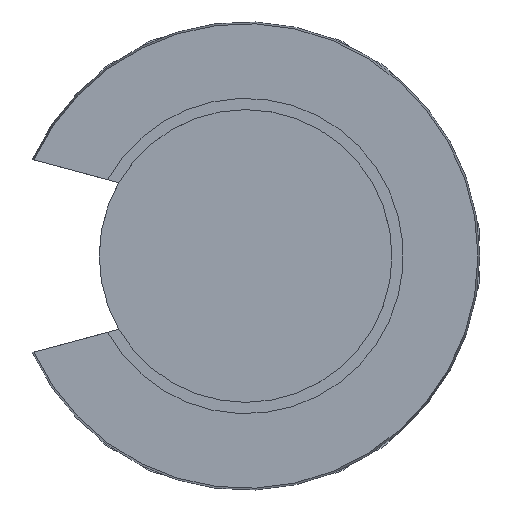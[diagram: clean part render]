
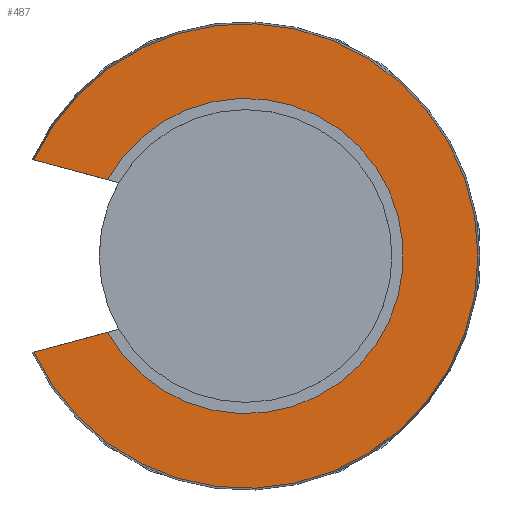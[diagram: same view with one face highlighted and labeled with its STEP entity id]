
A CAD part, front view. The second image highlights one B-rep face of the part: STEP entity #487.
In plain terms, the highlighted planar face has unit normal (0, -1, 0).
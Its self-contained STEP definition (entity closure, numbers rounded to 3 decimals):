
#202=CARTESIAN_POINT('',(-22.946,-33.34,-10.417));
#203=VERTEX_POINT('',#202);
#217=CARTESIAN_POINT('',(-14.963,-33.34,-8.277));
#218=VERTEX_POINT('',#217);
#219=CARTESIAN_POINT('',(-14.963,-33.34,-8.277));
#220=DIRECTION('',(-0.966,0.0,-0.259));
#221=VECTOR('',#220,8.265);
#222=LINE('',#219,#221);
#223=EDGE_CURVE('',#218,#203,#222,.T.);
#249=CARTESIAN_POINT('',(-14.963,-33.34,8.277));
#250=VERTEX_POINT('',#249);
#257=CARTESIAN_POINT('',(-22.946,-33.34,10.417));
#258=VERTEX_POINT('',#257);
#259=CARTESIAN_POINT('',(-22.946,-33.34,10.417));
#260=DIRECTION('',(0.966,0.0,-0.259));
#261=VECTOR('',#260,8.265);
#262=LINE('',#259,#261);
#263=EDGE_CURVE('',#258,#250,#262,.T.);
#452=CARTESIAN_POINT('',(0.0,-33.34,0.0));
#453=DIRECTION('',(0.0,1.0,0.0));
#454=DIRECTION('',(-1.0,0.0,0.0));
#455=AXIS2_PLACEMENT_3D('',#452,#453,#454);
#456=CIRCLE('',#455,17.1);
#457=EDGE_CURVE('',#250,#218,#456,.T.);
#470=CARTESIAN_POINT('',(-21.15,-33.34,0.0));
#471=DIRECTION('',(0.0,-1.0,0.0));
#472=DIRECTION('',(0.0,0.0,-1.0));
#473=AXIS2_PLACEMENT_3D('',#470,#471,#472);
#474=PLANE('',#473);
#475=ORIENTED_EDGE('',*,*,#223,.T.);
#476=CARTESIAN_POINT('',(0.0,-33.34,0.0));
#477=DIRECTION('',(0.0,1.0,0.0));
#478=DIRECTION('',(-1.0,0.0,0.0));
#479=AXIS2_PLACEMENT_3D('',#476,#477,#478);
#480=CIRCLE('',#479,25.2);
#481=EDGE_CURVE('',#258,#203,#480,.T.);
#482=ORIENTED_EDGE('',*,*,#481,.F.);
#483=ORIENTED_EDGE('',*,*,#263,.T.);
#484=ORIENTED_EDGE('',*,*,#457,.T.);
#485=EDGE_LOOP('',(#475,#482,#483,#484));
#486=FACE_OUTER_BOUND('',#485,.T.);
#487=ADVANCED_FACE('',(#486),#474,.T.);
